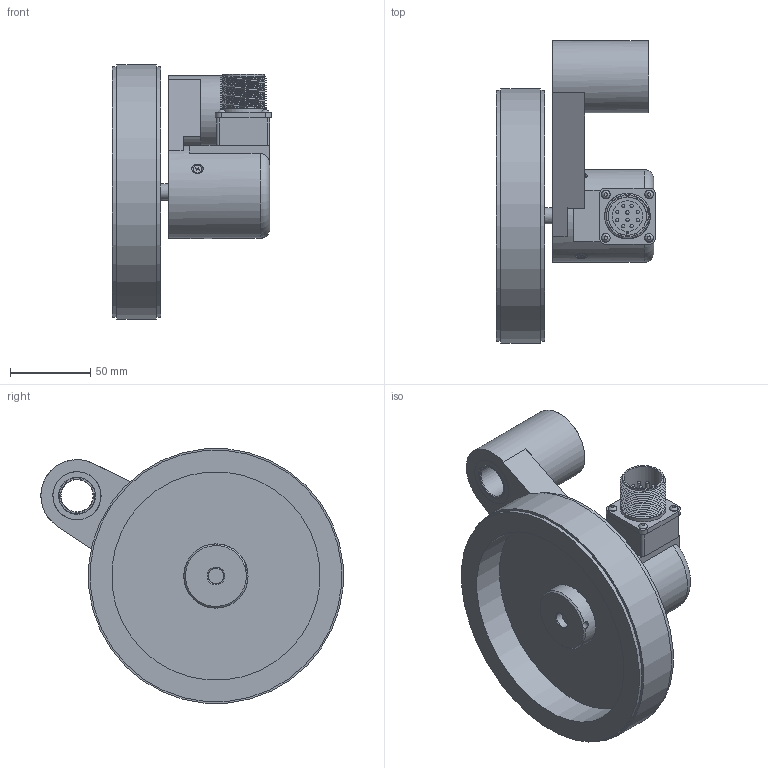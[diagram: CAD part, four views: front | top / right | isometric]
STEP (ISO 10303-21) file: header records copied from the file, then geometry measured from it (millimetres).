
FILE_DESCRIPTION( ( 'Unknown' ), '1' );
FILE_NAME( 'C:/Users/malfermoa/Desktop/step/RH_500.stp', 'Unknown', ( 'Unknown' ), ( 'Unknown' ), 'PSStep 15.0.49', 'Unknown', ' ' );
FILE_SCHEMA( ( 'AUTOMOTIVE_DESIGN { 1 0 10303 214 1 1 1 1 }' ) );
Length unit declared in the file: millimetre
Products named in the file (11): 41330320B1
Bounding box: 99.14 x 188.38 x 158.57 mm (x, y, z)
Volume: 584395.1 mm3; surface area: 150103.4 mm2
Topology: 11 solids, 28 shells, 646 faces, 1544 edges, 1007 vertices
Faces by surface type: plane 330, cylinder 204, cone 58, sphere 22, torus 17, bspline 15
Full cylindrical faces by diameter (mm): 2 x22, 2.05 x2, 2.459 x3, 2.5 x13, 2.6 x10, 3.3 x1, 3.4 x6, 3.459 x3, 3.5 x3, 4.134 x1, 4.5 x2, 5.6 x3, 6 x7, 7 x1, 7.232 x2, 8 x8, 9.6 x1, 10 x5, 10.5 x1, 11 x1, 12 x1, 14.5 x2, 19 x1, 20 x2, 21.2 x2, 21.998 x2, 22 x2, 23 x4, 23.9 x1, 25.2 x1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
Entity records: 24562 total; most frequent: CARTESIAN_POINT 6521, DIRECTION 2695, ORIENTED_EDGE 2212, EDGE_CURVE 1106, AXIS2_PLACEMENT_3D 1095, EDGE_LOOP 956, VERTEX_POINT 869, FACE_OUTER_BOUND 784
